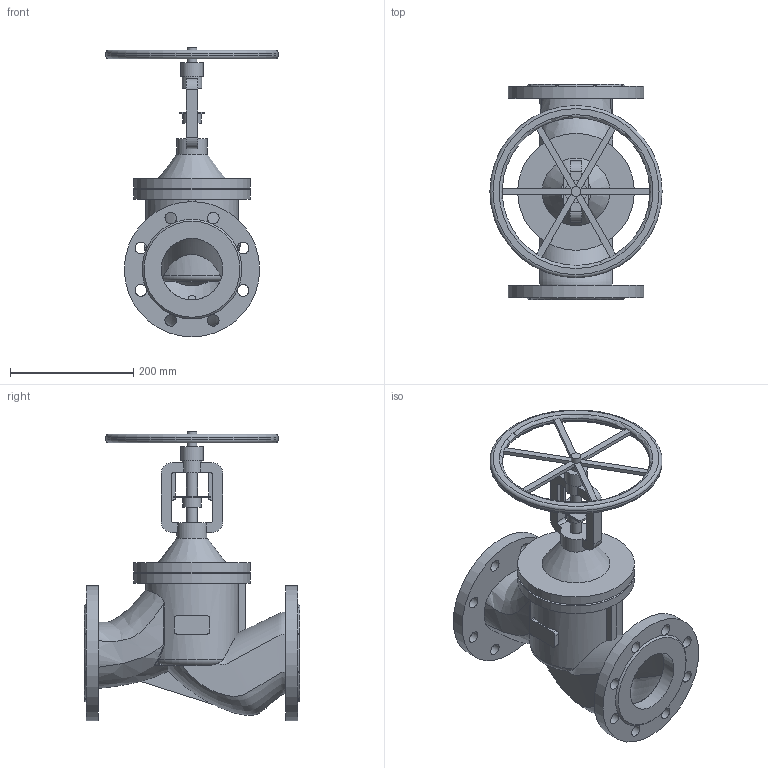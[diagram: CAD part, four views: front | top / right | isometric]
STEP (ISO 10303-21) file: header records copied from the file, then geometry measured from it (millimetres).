
FILE_DESCRIPTION(('STEP AP203'), '1');
FILE_NAME('Êëàïàí çàïîðíî-ðåãóëèðóþùèé BV2F DN100', '2026-09-22T07:52:45', ('Ýíåðãèÿ'), (''), 'ASCON STEP Converter 1.6', 'ASCON Math Kernel', '');
FILE_SCHEMA(('CONFIG_CONTROL_DESIGN'));
Length unit declared in the file: millimetre
Bounding box: 280 x 350 x 471 mm (x, y, z)
Volume: 5955841.6 mm3; surface area: 609796.4 mm2
Topology: 1 solids, 2 shells, 214 faces, 638 edges, 423 vertices
Faces by surface type: plane 105, cylinder 75, bspline 24, torus 7, cone 3
Full cylindrical faces by diameter (mm): 16 x2, 18 x2, 19 x16, 30 x1, 32 x1, 36 x1, 50 x1, 100 x1, 180 x1, 190 x2, 220 x2, 280 x1
Entity records: 26522 total; most frequent: CARTESIAN_POINT 19272, ORIENTED_EDGE 1196, DIRECTION 1031, EDGE_CURVE 598, VERTEX_POINT 423, AXIS2_PLACEMENT_3D 407, EDGE_LOOP 297, FACE_BOUND 243
